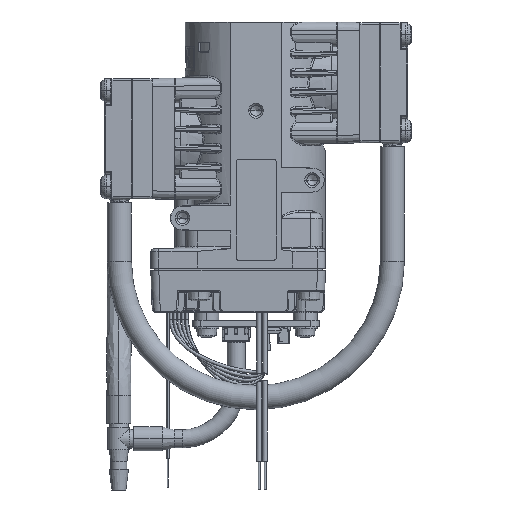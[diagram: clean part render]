
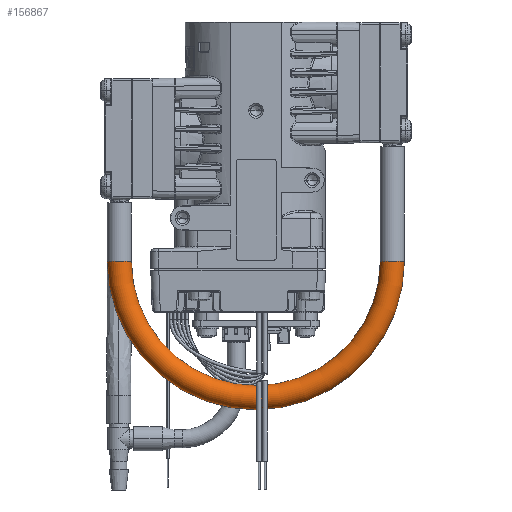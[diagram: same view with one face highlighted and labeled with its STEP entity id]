
A CAD part, left-side view. The second image highlights one B-rep face of the part: STEP entity #156867.
In plain terms, the highlighted toroidal (fillet/blend) face has major radius 34 mm and minor radius 3 mm.
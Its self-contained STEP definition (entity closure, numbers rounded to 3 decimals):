
#29109=CARTESIAN_POINT('',(-7.5,0.04,-30.5));
#29110=DIRECTION('',(1.,0.,0.));
#29111=DIRECTION('',(0.,-1.,0.));
#29112=AXIS2_PLACEMENT_3D('',#29109,#29110,#29111);
#29132=CARTESIAN_POINT('',(-7.5,-33.96,-30.5));
#29133=DIRECTION('',(0.,0.,-1.));
#29134=DIRECTION('',(0.,-1.,0.));
#29135=AXIS2_PLACEMENT_3D('',#29132,#29133,#29134);
#29137=CARTESIAN_POINT('',(-7.5,0.04,-30.5));
#29138=DIRECTION('',(1.,0.,0.));
#29139=DIRECTION('',(0.,-1.,0.));
#29140=AXIS2_PLACEMENT_3D('',#29137,#29138,#29139);
#29142=CARTESIAN_POINT('',(-7.5,34.04,-30.5));
#29143=DIRECTION('',(0.,0.,1.));
#29144=DIRECTION('',(0.,1.,0.));
#29145=AXIS2_PLACEMENT_3D('',#29142,#29143,#29144);
#108716=CARTESIAN_POINT('',(-7.5,-30.96,-30.5));
#108717=CARTESIAN_POINT('',(-7.5,-36.96,-30.5));
#108718=VERTEX_POINT('',#108716);
#108719=VERTEX_POINT('',#108717);
#108720=CARTESIAN_POINT('',(-7.5,31.04,-30.5));
#108721=CARTESIAN_POINT('',(-7.5,37.04,-30.5));
#108722=VERTEX_POINT('',#108720);
#108723=VERTEX_POINT('',#108721);
#156855=CARTESIAN_POINT('',(-7.5,0.04,-30.5));
#156856=DIRECTION('',(1.,0.,0.));
#156857=DIRECTION('',(0.,1.,0.));
#156858=AXIS2_PLACEMENT_3D('',#156855,#156856,#156857);
#156859=TOROIDAL_SURFACE('',#156858,34.,3.);
#156860=ORIENTED_EDGE('',*,*,#156842,.F.);
#156861=ORIENTED_EDGE('',*,*,#156765,.T.);
#156863=ORIENTED_EDGE('',*,*,#156862,.T.);
#156864=ORIENTED_EDGE('',*,*,#156762,.F.);
#156865=EDGE_LOOP('',(#156860,#156861,#156863,#156864));
#156866=FACE_OUTER_BOUND('',#156865,.F.);
#29113=CIRCLE('',#29112,31.);
#29136=CIRCLE('',#29135,3.);
#29141=CIRCLE('',#29140,37.);
#29146=CIRCLE('',#29145,3.);
#156762=EDGE_CURVE('',#108718,#108722,#29113,.T.);
#156765=EDGE_CURVE('',#108719,#108723,#29141,.T.);
#156842=EDGE_CURVE('',#108719,#108718,#29136,.T.);
#156862=EDGE_CURVE('',#108723,#108722,#29146,.T.);
#156867=ADVANCED_FACE('',(#156866),#156859,.T.);
